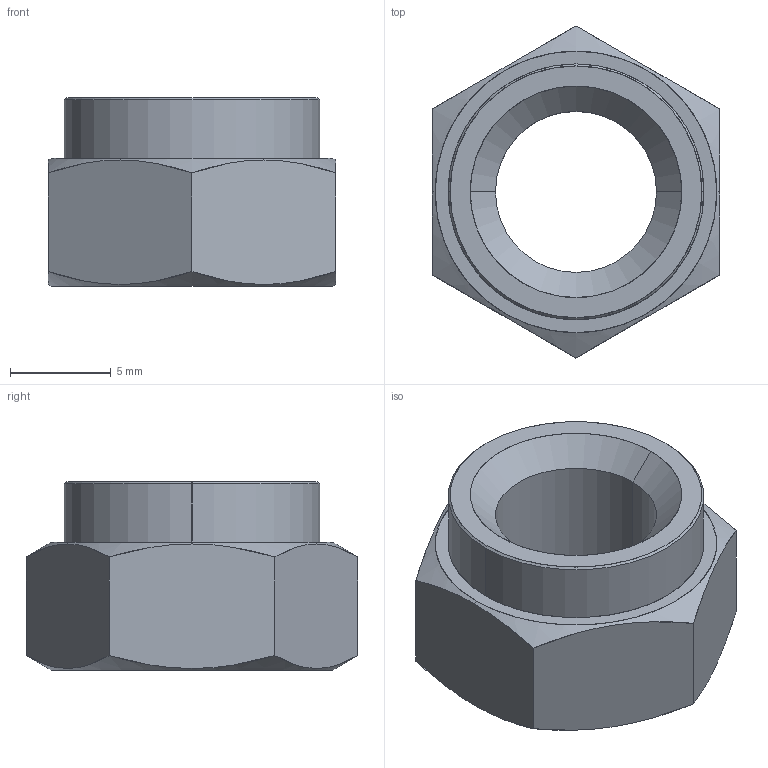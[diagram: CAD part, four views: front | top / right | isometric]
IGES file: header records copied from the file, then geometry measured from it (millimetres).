
Start section: SolidWorks IGES file using analytic representation for surfaces
Global section: file name: C:\Users\liam_\OneDrive\Desktop\Work\Mat Davis Pending 20181125\automotion\P SERIES\P0827.ZP_v2\P0827.ZP_v2_20181231_IGES\P0827.080-12G-ZP.igs; native system: SolidWorks 2017; preprocessor: SolidWorks 2017; author: liam_; date: 181231.110929; units: millimetre
Bounding box: 14.27 x 16.48 x 9.35 mm (x, y, z)
Surface area: 862.8 mm2 (no closed solid volume)
Topology: 0 solids, 0 shells, 23 faces, 424 edges, 424 vertices
Faces by surface type: revolution 14, bspline 9
